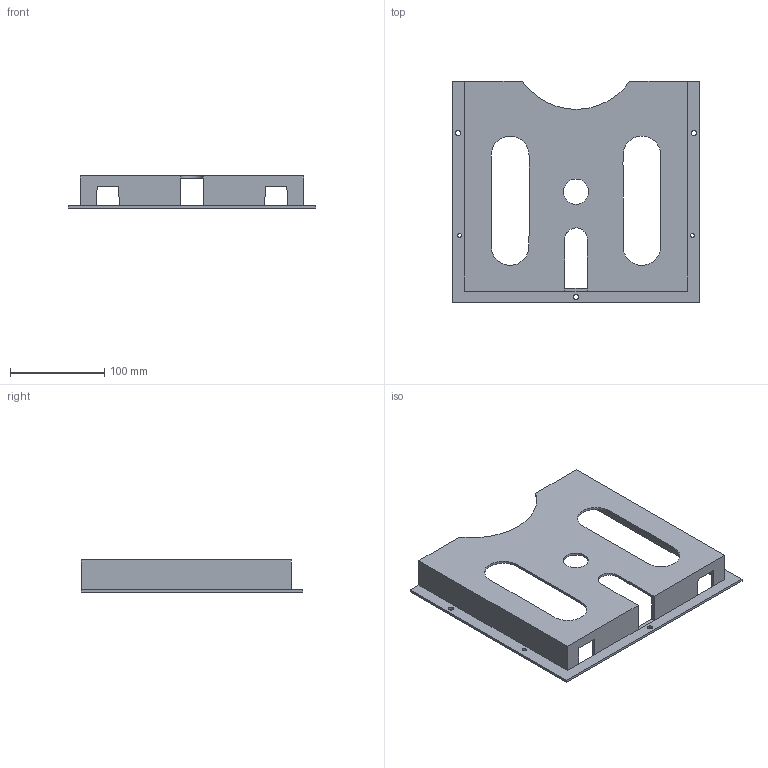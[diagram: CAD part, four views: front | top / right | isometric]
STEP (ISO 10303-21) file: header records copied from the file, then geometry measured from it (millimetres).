
FILE_DESCRIPTION(/* description */ (''),/* implementation_level */ '2;1');
FILE_NAME(/* name */ 'alfatasc',/* time_stamp */ '2025-07-15T12:21:37+02:00',/* author */ (''),/* organization */ (''),/* preprocessor_version */ 'ST-DEVELOPER v19.2',/* originating_system */ 'Rhino 8.17',/* authorisation */ '');
FILE_SCHEMA (('CONFIG_CONTROL_DESIGN'));
Length unit declared in the file: millimetre
Products named in the file (1): Document
Bounding box: 263 x 235 x 34 mm (x, y, z)
Volume: 174925.2 mm3; surface area: 138803.2 mm2
Topology: 1 solids, 1 shells, 38 faces, 118 edges, 76 vertices
Faces by surface type: plane 27, cylinder 8, bspline 3
Full cylindrical faces by diameter (mm): 4 x2, 5.5 x3, 26.7 x1
Entity records: 1600 total; most frequent: CARTESIAN_POINT 665, ORIENTED_EDGE 236, EDGE_CURVE 118, B_SPLINE_CURVE_WITH_KNOTS 94, VERTEX_POINT 76, DIRECTION 71, EDGE_LOOP 54, AXIS2_PLACEMENT_3D 53
